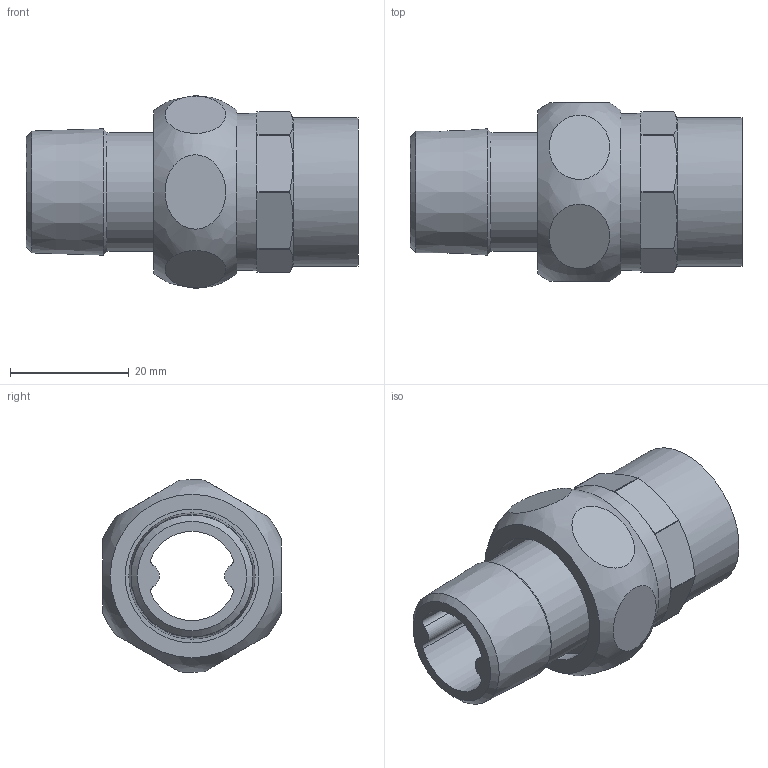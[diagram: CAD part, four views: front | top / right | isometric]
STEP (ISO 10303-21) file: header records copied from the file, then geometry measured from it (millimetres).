
FILE_DESCRIPTION((''),'2;1');
FILE_NAME('G:\Engineering\Public\RYSUNKI\SANHA POLSKA\4331g\step\14331g_22-12(2).stp','2013-09-18T07:23:31',('haldrzynski'),(''),'Autodesk Inventor 2009','Autodesk Inventor 2009','');
FILE_SCHEMA(('AUTOMOTIVE_DESIGN { 1 0 10303 214 1 1 1 1 }'));
Length unit declared in the file: millimetre
Products named in the file (5): 14331g_22-12(2); 14371_12-34(1); 14374_34(2); 1DCU34; 14370_22-34(2)
Assembly tree (4 placements, depth 2):
  14331g_22-12(2)
    14371_12-34(1)
    14374_34(2)
    1DCU34
    14370_22-34(2)
Bounding box: 55.87 x 30 x 32.45 mm (x, y, z)
Volume: 14258.8 mm3; surface area: 11551.2 mm2
Topology: 4 solids, 4 shells, 80 faces, 167 edges, 104 vertices
Faces by surface type: plane 41, cylinder 26, cone 12, bspline 1
Full cylindrical faces by diameter (mm): 17 x2, 20 x1, 22 x1, 22.5 x1, 23 x1, 23.5 x1, 24.117 x1, 25 x1, 26.441 x1
Entity records: 3162 total; most frequent: CARTESIAN_POINT 1353, DIRECTION 384, ORIENTED_EDGE 300, AXIS2_PLACEMENT_3D 168, EDGE_CURVE 150, EDGE_LOOP 112, VERTEX_POINT 102, CIRCLE 80
